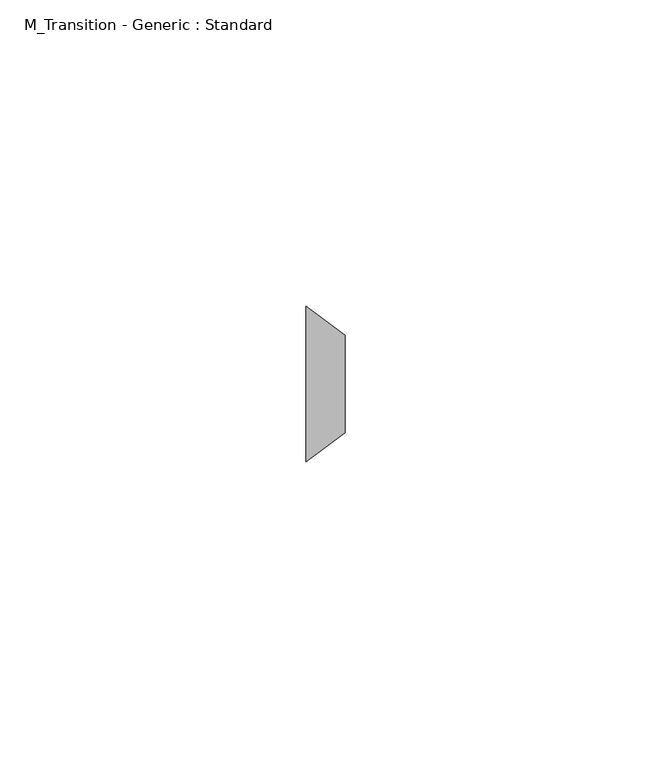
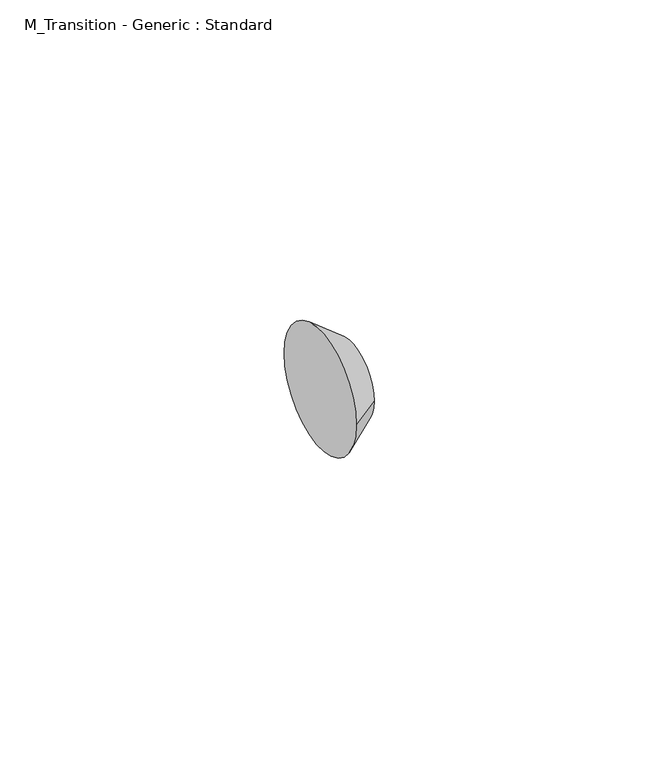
"""IFC4 building model written with IfcOpenShell, lengths in millimetres: pipe fitting geometry, M_Transition - Generic : Standard."""

from ifc_helpers import new_model, si_unit, frame, origin, place, context, project, spatial, polyline, circle_curve, source, transform, mapped, element, save
from ifc_brep_helpers import plane_surface, revolved_surface, advanced_brep


def m_transition_generic_standard_e9aec4dd(model_context):
    return source(origin(), model_context, "Body", "AdvancedBrep", [
        advanced_brep(
        [(6.35, -7.9375, 0.0), (6.35, 7.9375, 0.0), (0.0, -12.7, 0.0), (0.0, 12.7, 0.0)],
        [
            (0, 1, circle_curve(frame((6.35, 0.0, 0.0), z_axis=(1.0, 0.0, 0.0), x_axis=(0.0, -1.0, 0.0)), 7.9375)),
            (1, 0, circle_curve(frame((6.35, 0.0, 0.0), z_axis=(1.0, 0.0, 0.0), x_axis=(0.0, 1.0, 0.0)), 7.9375)),
            (2, 3, circle_curve(frame((0.0, 0.0, 0.0), z_axis=(-1.0, 0.0, 0.0), x_axis=(0.0, 1.0, 0.0)), 12.7)),
            (3, 2, circle_curve(frame((0.0, 0.0, 0.0), z_axis=(-1.0, 0.0, 0.0), x_axis=(0.0, -1.0, 0.0)), 12.7)),
            (3, 1),
            (0, 2),
        ],
        [
            plane_surface(frame((6.35, 0.0, 0.0), z_axis=(1.0, 0.0, 0.0), x_axis=(0.0, 0.0, -1.0))),
            plane_surface(frame((0.0, 0.0, 0.0), z_axis=(-1.0, 0.0, 0.0), x_axis=(0.0, 0.0, -1.0))),
            revolved_surface(polyline([(6.35, -7.937499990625, 0.0), (0.0, -12.7, 0.0)]), (16.9333333, 0.0, 0.0), (-1.0, 0.0, 0.0)),
            revolved_surface(polyline([(6.35, 7.937499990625, 0.0), (0.0, 12.7, 0.0)]), (16.9333333, 0.0, 0.0), (-1.0, 0.0, 0.0)),
        ],
        [
            (0, [[1, 2]]),
            (1, [[3, 4]]),
            (2, [[-4, 5, -1, 6]]),
            (3, [[-3, -6, -2, -5]]),
        ],
    ),
    ])


if __name__ == "__main__":
    model = new_model("IFC4")
    model_context = context("Model", 3, world=origin())
    ifc_project = project(units=[si_unit("LENGTHUNIT", "METRE", prefix="MILLI")], contexts=[model_context])
    site = spatial("IfcSite", under=ifc_project)
    building = spatial("IfcBuilding", under=site)
    placement = place(None, origin())
    m_transition_generic_standard_shape = m_transition_generic_standard_e9aec4dd(model_context)
    element("IfcPipeFitting", 1, ObjectType="M_Transition - Generic : Standard", at=placement, inside=building, context=model_context, shape_type="MappedRepresentation", body=[
        mapped(m_transition_generic_standard_shape, transform((0.0, 0.0, 0.0), x_axis=(1.0, 0.0, 0.0), y_axis=(0.0, 1.0, 0.0), z_axis=(0.0, 0.0, 1.0))),
    ])
    save(model, "model.ifc")
